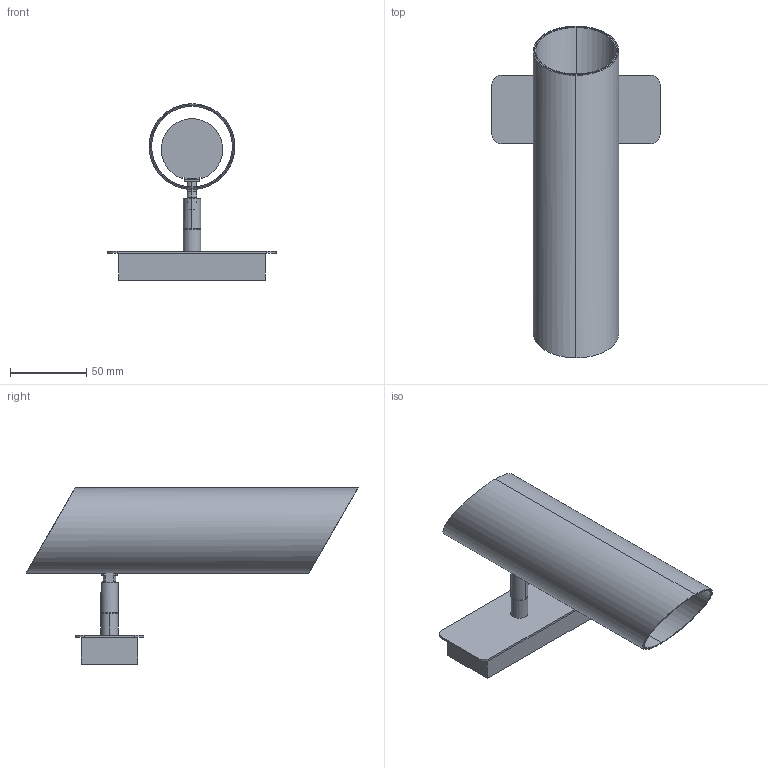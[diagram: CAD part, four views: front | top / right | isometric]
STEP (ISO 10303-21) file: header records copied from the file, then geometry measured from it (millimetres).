
FILE_DESCRIPTION(/* description */ (''),/* implementation_level */ '2;1');
FILE_NAME(/* name */ 'C:\Users\FrancoSartori\Documents\FARO\01_En Proceso\00_LINK\03_Publicación\29897.stp',/* time_stamp */ '2021-07-26T08:46:51+02:00',/* author */ ('FrancoSartori'),/* organization */ (''),/* preprocessor_version */ 'ST-DEVELOPER v18.1',/* originating_system */ 'AutoCAD Mechanical',/* authorisation */ '');
FILE_SCHEMA (('AUTOMOTIVE_DESIGN { 1 0 10303 214 3 1 1 }'));
Length unit declared in the file: millimetre
Products named in the file (2): Product; 29873_ 29874_ 29897_ - structure-585364-Export
Assembly tree (1 placements, depth 2):
  Product
    29873_ 29874_ 29897_ - structure-585364-Export
Bounding box: 110 x 217.33 x 115.47 mm (x, y, z)
Volume: 67847 mm3; surface area: 157199.6 mm2
Topology: 7 solids, 8 shells, 113 faces, 276 edges, 176 vertices
Faces by surface type: plane 68, cylinder 41, bspline 4
Entity records: 3671 total; most frequent: CARTESIAN_POINT 932, DIRECTION 558, ORIENTED_EDGE 540, EDGE_CURVE 276, AXIS2_PLACEMENT_3D 188, LINE 182, VECTOR 182, VERTEX_POINT 176
